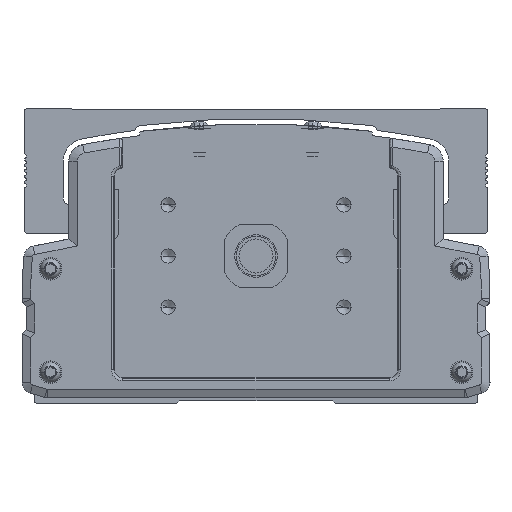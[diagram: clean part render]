
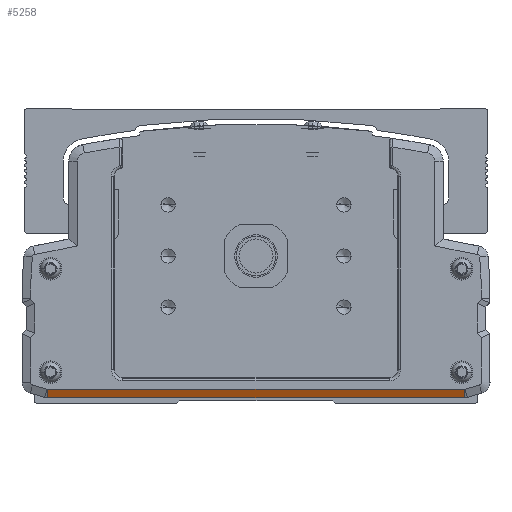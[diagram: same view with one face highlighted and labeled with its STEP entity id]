
A CAD part, front view. The second image highlights one B-rep face of the part: STEP entity #5258.
In plain terms, the highlighted planar face has unit normal (0, -0.894, -0.447).
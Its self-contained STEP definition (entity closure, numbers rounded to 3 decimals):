
#5258=ADVANCED_FACE('',(#11020),#11021,.F.);
#11020=FACE_OUTER_BOUND('',#19169,.T.);
#11021=PLANE('',#19170);
#19169=EDGE_LOOP('',(#35137,#35138,#35139,#35140));
#19170=AXIS2_PLACEMENT_3D('',#35141,#35142,#35143);
#35137=ORIENTED_EDGE('',*,*,#45754,.T.);
#35138=ORIENTED_EDGE('',*,*,#40196,.F.);
#35139=ORIENTED_EDGE('',*,*,#40170,.F.);
#35140=ORIENTED_EDGE('',*,*,#45755,.F.);
#35141=CARTESIAN_POINT('',(-599.999,-86.278,-50.001));
#35142=DIRECTION('',(0.,0.894,0.447));
#35143=DIRECTION('',(0.,0.447,-0.894));
#40170=EDGE_CURVE('',#48140,#47588,#48141,.T.);
#40196=EDGE_CURVE('',#47588,#48183,#48184,.T.);
#45754=EDGE_CURVE('',#56375,#48183,#56376,.T.);
#45755=EDGE_CURVE('',#56375,#48140,#56377,.T.);
#47588=VERTEX_POINT('',#58780);
#48140=VERTEX_POINT('',#59666);
#48141=LINE('',#59667,#59668);
#48183=VERTEX_POINT('',#59734);
#48184=LINE('',#59735,#59736);
#56375=VERTEX_POINT('',#72393);
#56376=LINE('',#72394,#72395);
#56377=LINE('',#72396,#72397);
#58780=CARTESIAN_POINT('',(-526.575,-86.278,-50.001));
#59666=CARTESIAN_POINT('',(-526.575,-87.778,-47.001));
#59667=CARTESIAN_POINT('',(-526.575,-87.778,-47.001));
#59668=VECTOR('',#74481,1000.0);
#59734=CARTESIAN_POINT('',(-673.423,-86.278,-50.001));
#59735=CARTESIAN_POINT('',(-599.999,-86.278,-50.001));
#59736=VECTOR('',#74527,1000.0);
#72393=CARTESIAN_POINT('',(-673.423,-87.778,-47.001));
#72394=CARTESIAN_POINT('',(-673.423,-87.778,-47.001));
#72395=VECTOR('',#81047,1000.0);
#72396=CARTESIAN_POINT('',(-600.015,-87.778,-47.001));
#72397=VECTOR('',#81048,1000.0);
#74481=DIRECTION('',(0.,0.447,-0.894));
#74527=DIRECTION('',(-1.0,0.,0.));
#81047=DIRECTION('',(0.,0.447,-0.894));
#81048=DIRECTION('',(1.0,0.,0.));
